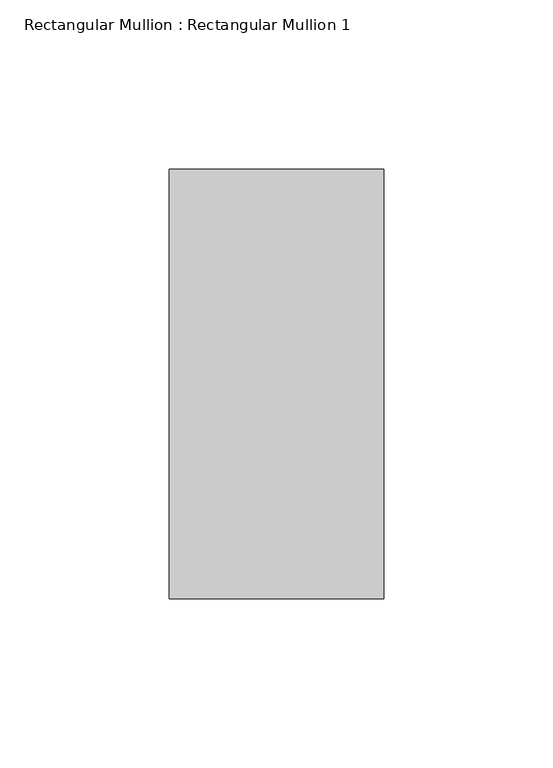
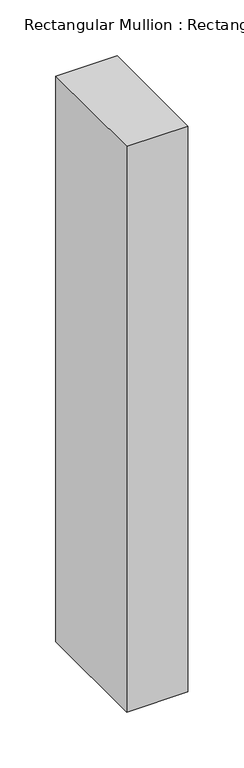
"""IFC4 building model written with IfcOpenShell, lengths in millimetres: member geometry, Rectangular Mullion : Rectangular Mullion 1."""

from ifc_helpers import new_model, si_unit, frame, origin, place, context, project, spatial, polyline, outline, extrude, source, transform, mapped, element, save


def rectangular_mullion_rectangular_mullion_1_d7e0bba1(model_context):
    return source(origin(), model_context, "Body", "SweptSolid", [
        extrude(outline(polyline([(0.0, 63.5), (0.0, -63.5), (-63.5, -63.5), (-63.5, 63.5), (0.0, 63.5)])), frame((0.0, 0.0, -619.6524417), z_axis=(0.0, 0.0, 1.0), x_axis=(1.0, 0.0, 0.0)), (0.0, 0.0, 1.0), 619.6524417),
    ])


if __name__ == "__main__":
    model = new_model("IFC4")
    model_context = context("Model", 3, world=origin())
    ifc_project = project(units=[si_unit("LENGTHUNIT", "METRE", prefix="MILLI")], contexts=[model_context])
    site = spatial("IfcSite", under=ifc_project)
    building = spatial("IfcBuilding", under=site)
    placement = place(None, origin())
    rectangular_mullion_rectangular_mullion_1_shape = rectangular_mullion_rectangular_mullion_1_d7e0bba1(model_context)
    element("IfcMember", 1, ObjectType="Rectangular Mullion : Rectangular Mullion 1", at=placement, inside=building, context=model_context, shape_type="MappedRepresentation", body=[
        mapped(rectangular_mullion_rectangular_mullion_1_shape, transform((0.0, 0.0, 0.0), x_axis=(1.0, 0.0, 0.0), y_axis=(0.0, 1.0, 0.0), z_axis=(0.0, 0.0, 1.0))),
    ])
    save(model, "model.ifc")
